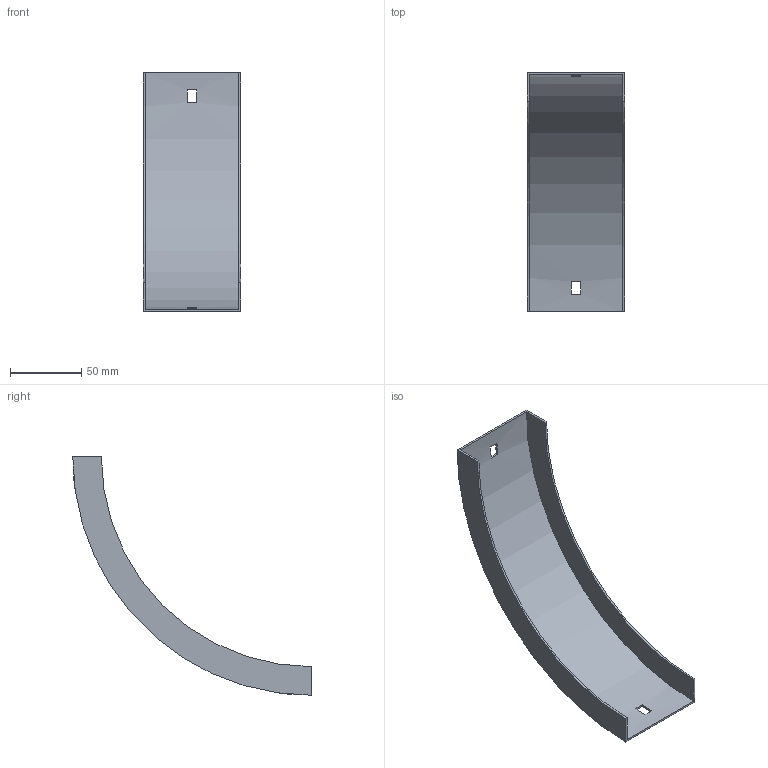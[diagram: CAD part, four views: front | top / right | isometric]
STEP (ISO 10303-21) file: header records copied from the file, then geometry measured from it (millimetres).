
FILE_DESCRIPTION (( 'STEP AP214' ), '1' );
FILE_NAME ('33N1H065.step', '2025-02-21T09:18:21', ( '' ), ( '' ), 'SwSTEP 2.0', 'SolidWorks 2023', '' );
FILE_SCHEMA (( 'AUTOMOTIVE_DESIGN' ));
Length unit declared in the file: millimetre
Products named in the file (1): 33N1H065
Bounding box: 68.5 x 167 x 167 mm (x, y, z)
Volume: 40278 mm3; surface area: 54810.2 mm2
Topology: 1 solids, 1 shells, 18 faces, 48 edges, 32 vertices
Faces by surface type: plane 14, cylinder 4
Entity records: 599 total; most frequent: DIRECTION 102, CARTESIAN_POINT 99, ORIENTED_EDGE 96, EDGE_CURVE 48, AXIS2_PLACEMENT_3D 35, VECTOR 32, LINE 32, VERTEX_POINT 32
